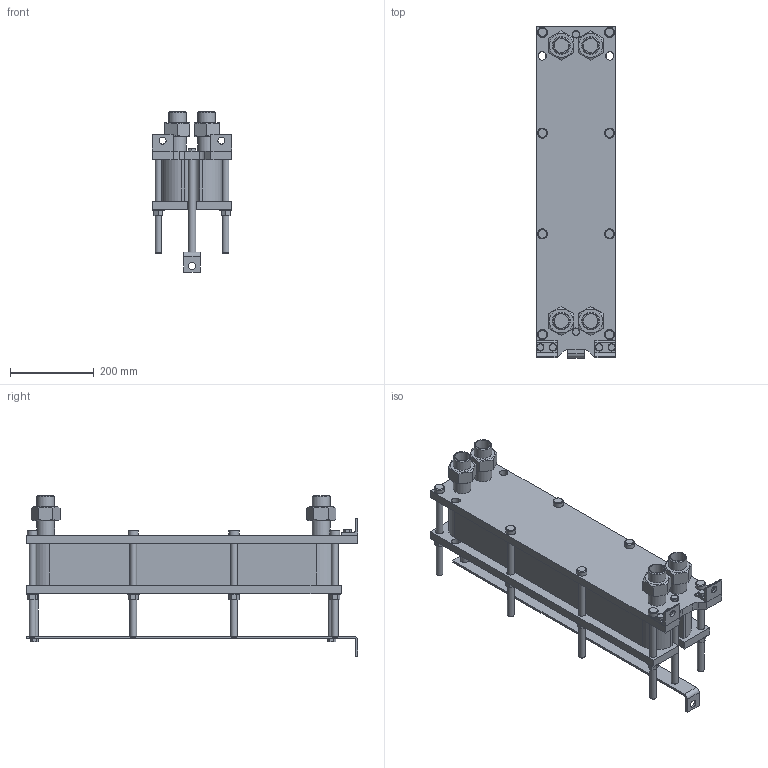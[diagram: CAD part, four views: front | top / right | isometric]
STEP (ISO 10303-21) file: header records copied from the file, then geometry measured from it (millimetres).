
FILE_DESCRIPTION(/* description */ (''),/* implementation_level */ '2;1');
FILE_NAME(/* name */ 'C:\Users\zhuro\Desktop\ENCO\TO\ЭН-008\ЭН-0,5-008-32-1.stp',/* time_stamp */ '2022-06-06T10:47:28+03:00',/* author */ ('zhuro'),/* organization */ (''),/* preprocessor_version */ 'ST-DEVELOPER v18.1',/* originating_system */ 'Autodesk Inventor 2022',/* authorisation */ '');
FILE_SCHEMA (('AUTOMOTIVE_DESIGN { 1 0 10303 214 3 1 1 }','TECHNICAL_DATA_PACKAGING'));
Length unit declared in the file: millimetre
Products named in the file (1): ЭН-0,5-008-32-1
Bounding box: 190 x 790 x 382.6 mm (x, y, z)
Volume: 16796430.4 mm3; surface area: 1446324.3 mm2
Topology: 40 solids, 40 shells, 428 faces, 924 edges, 606 vertices
Faces by surface type: plane 273, cylinder 109, cone 40, torus 6
Full cylindrical faces by diameter (mm): 12 x6, 14 x2, 16 x20, 17 x8, 18 x19, 20 x5, 24 x8, 28 x8, 34.3 x8, 42.3 x8
Entity records: 15843 total; most frequent: CARTESIAN_POINT 5991, DIRECTION 1984, ORIENTED_EDGE 1848, EDGE_CURVE 924, AXIS2_PLACEMENT_3D 715, VERTEX_POINT 606, LINE 554, VECTOR 554
